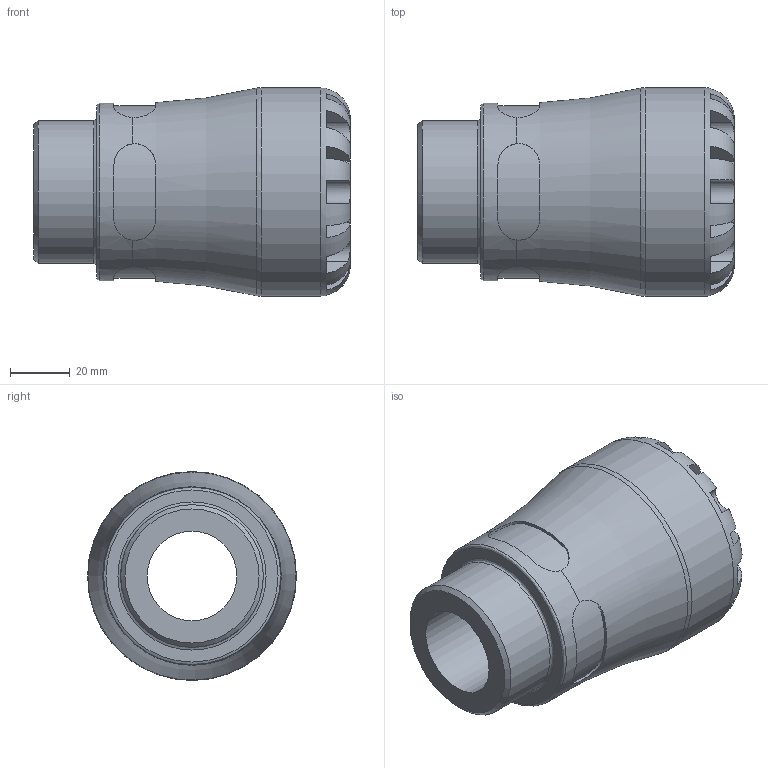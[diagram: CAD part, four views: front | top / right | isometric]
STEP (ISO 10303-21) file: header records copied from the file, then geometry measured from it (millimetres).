
FILE_DESCRIPTION(/* description */ ('PLASSON MALE ADAPTOR 40X1.1/2" SERIES 1'),/* implementation_level */ '2;1');
FILE_NAME(/* name */ 'C:\Dropbox\KIMPROJECTS-Inventor\99-16-3568-Processing\S1\1002\100200040015_190200040015.ipt.stp',/* time_stamp */ '2017-07-27T14:39:30+03:00',/* author */ ('KIM'),/* organization */ (''),/* preprocessor_version */ 'ST-DEVELOPER v15.6',/* originating_system */ 'Autodesk Inventor 2015',/* authorisation */ '');
FILE_SCHEMA (('AUTOMOTIVE_DESIGN { 1 0 10303 214 3 1 1 }'));
Length unit declared in the file: millimetre
Products named in the file (1): 100200040015_190200040015
Bounding box: 106 x 70 x 70 mm (x, y, z)
Volume: 195604.3 mm3; surface area: 38980.3 mm2
Topology: 1 solids, 1 shells, 100 faces, 257 edges, 161 vertices
Faces by surface type: plane 60, cylinder 33, torus 5, cone 2
Full cylindrical faces by diameter (mm): 30 x1, 40 x1, 47.803 x1, 59.5 x1, 70 x1
Entity records: 3776 total; most frequent: CARTESIAN_POINT 1457, ORIENTED_EDGE 484, DIRECTION 462, EDGE_CURVE 242, AXIS2_PLACEMENT_3D 191, VERTEX_POINT 158, EDGE_LOOP 116, FACE_OUTER_BOUND 100
